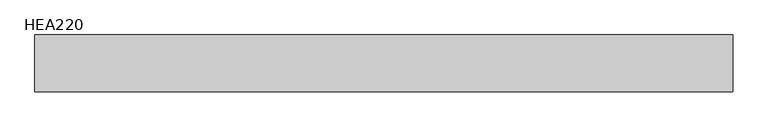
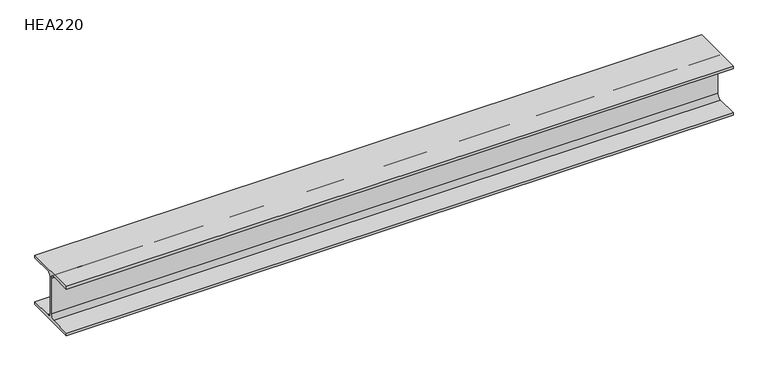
"""IFC4 building model written with IfcOpenShell, lengths in millimetres: beam geometry, HE-A : HEA220."""

import ifcopenshell
import ifcopenshell.guid

model = None  # the IFC model being written
_history = None  # IfcOwnerHistory: only IFC2X3 demands one
_inside = {}  # id of a spatial element -> (the spatial element, [elements in it])
_under = {}  # id of a project, library or spatial element -> (it, [spatial elements below it])
_declared = {}  # id of a project -> (the project, [libraries it declares])
_typed = {}  # id of a type object -> (the type object, [elements of that type])
_made_of = {}  # id of a material, layer set ... -> (it, [elements and type objects made of it])


def new_model(schema):
    """Start an empty IFC model of exactly this schema.

    Asked for "IFC4X3", IfcOpenShell would pick the latest addendum, in which some entities
    have other attributes; the version numbers below select the first issue.
    IFC2X3 requires an IfcOwnerHistory on every rooted entity: one is made here for all.
    """
    global model, _history
    if schema == "IFC4X3":
        model = ifcopenshell.file(schema_version=(4, 3, 0, 0))
    else:
        model = ifcopenshell.file(schema=schema)
    _inside.clear()
    _under.clear()
    _declared.clear()
    _typed.clear()
    _made_of.clear()
    _history = None
    if model.schema == "IFC2X3":
        org = make("IfcOrganization", Name="unknown")
        user = make(
            "IfcPersonAndOrganization",
            ThePerson=make("IfcPerson", FamilyName="unknown"),
            TheOrganization=org,
        )
        app = make(
            "IfcApplication",
            ApplicationDeveloper=org,
            Version="unknown",
            ApplicationFullName="unknown",
            ApplicationIdentifier="unknown",
        )
        _history = make(
            "IfcOwnerHistory",
            OwningUser=user,
            OwningApplication=app,
            ChangeAction="ADDED",
            CreationDate=0,
        )
    return model


def make(cls, **values):
    """One entity of the class cls with the attributes given. An attribute that is None is left unset."""
    return model.create_entity(
        cls, **{name: value for name, value in values.items() if value is not None}
    )


def rooted(cls, **values):
    """An entity with a GlobalId (a new one), such as an element, a storey or a relation."""
    return make(cls, GlobalId=ifcopenshell.guid.new(), OwnerHistory=_history, **values)


def si_unit(unit_type, name, prefix=None):
    """IfcSIUnit, for example si_unit("LENGTHUNIT", "METRE", prefix="MILLI")."""
    return make("IfcSIUnit", UnitType=unit_type, Prefix=prefix, Name=name)


def assignment(units):
    """IfcUnitAssignment: the units of a project."""
    return None if units is None else make("IfcUnitAssignment", Units=units)


def point(xyz):
    """IfcCartesianPoint."""
    return None if xyz is None else make("IfcCartesianPoint", Coordinates=xyz)


def direction(xyz):
    """IfcDirection."""
    return None if xyz is None else make("IfcDirection", DirectionRatios=xyz)


def frame(location, z_axis=None, x_axis=None):
    """IfcAxis2Placement3D, a coordinate frame: its origin and axes. An axis left out is left unset."""
    return make(
        "IfcAxis2Placement3D",
        Location=point(location),
        Axis=direction(z_axis),
        RefDirection=direction(x_axis),
    )


def frame_2d(location, x_axis=None):
    """IfcAxis2Placement2D, a coordinate frame in the plane: its origin and x axis."""
    return make(
        "IfcAxis2Placement2D", Location=point(location), RefDirection=direction(x_axis)
    )


def origin():
    """The frame at (0, 0, 0) with its axes left unset."""
    return frame((0.0, 0.0, 0.0))


def place(relative_to, where):
    """IfcLocalPlacement: puts the frame where relative to a parent placement (None: the world)."""
    return make(
        "IfcLocalPlacement", PlacementRelTo=relative_to, RelativePlacement=where
    )


def context(
    kind, dimensions, precision=None, world=None, true_north=None, identifier=None
):
    """IfcGeometricRepresentationContext, for example the 3D "Model" context."""
    return make(
        "IfcGeometricRepresentationContext",
        ContextIdentifier=identifier,
        ContextType=kind,
        CoordinateSpaceDimension=dimensions,
        Precision=precision,
        WorldCoordinateSystem=world,
        TrueNorth=true_north,
    )


def project(units=None, contexts=None):
    """IfcProject with its units and contexts."""
    return rooted(
        "IfcProject",
        Name="project",
        RepresentationContexts=contexts,
        UnitsInContext=assignment(units),
    )


def spatial(cls, under=None, at=None, **own):
    """A site, building, storey or space (cls), placed at a placement, below another one or the project."""
    s = rooted(cls, ObjectPlacement=at, **own)
    if under is not None:
        _under.setdefault(under.id(), (under, []))[1].append(s)
    return s


def polyline(points):
    """IfcPolyline through the points."""
    return make("IfcPolyline", Points=[point(p) for p in points])


def circle_curve(where, radius):
    """IfcCircle in the frame where."""
    return make("IfcCircle", Position=where, Radius=radius)


def trimmed(basis, trim1, trim2, sense, master):
    """IfcTrimmedCurve: the piece of a basis curve between two trims."""
    return make(
        "IfcTrimmedCurve",
        BasisCurve=basis,
        Trim1=trim1,
        Trim2=trim2,
        SenseAgreement=sense,
        MasterRepresentation=master,
    )


def segment(curve, same_sense, transition):
    """IfcCompositeCurveSegment."""
    return make(
        "IfcCompositeCurveSegment",
        Transition=transition,
        SameSense=same_sense,
        ParentCurve=curve,
    )


def composite_curve(segments, self_intersect=None):
    """IfcCompositeCurve: segments joined end to end."""
    return make("IfcCompositeCurve", Segments=segments, SelfIntersect=self_intersect)


def outline(outer, holes=None, kind="AREA"):
    """IfcArbitraryClosedProfileDef: a profile drawn as a closed curve; with holes, ...WithVoids."""
    if holes is None:
        return make("IfcArbitraryClosedProfileDef", ProfileType=kind, OuterCurve=outer)
    return make(
        "IfcArbitraryProfileDefWithVoids",
        ProfileType=kind,
        OuterCurve=outer,
        InnerCurves=holes,
    )


def extrude(swept, where, along, depth):
    """IfcExtrudedAreaSolid: the profile swept, set in the frame where, extruded along a direction by depth."""
    return make(
        "IfcExtrudedAreaSolid",
        SweptArea=swept,
        Position=where,
        ExtrudedDirection=direction(along),
        Depth=depth,
    )


def shape(context_of_items, identifier, shape_type, items):
    """IfcShapeRepresentation: the items that make up one representation, for example the "Body"."""
    return make(
        "IfcShapeRepresentation",
        ContextOfItems=context_of_items,
        RepresentationIdentifier=identifier,
        RepresentationType=shape_type,
        Items=items,
    )


def source(mapping_origin, context_of_items, identifier, shape_type, items):
    """IfcRepresentationMap: a shape defined once, which mapped items show again and again."""
    return make(
        "IfcRepresentationMap",
        MappingOrigin=mapping_origin,
        MappedRepresentation=shape(context_of_items, identifier, shape_type, items),
    )


def transform(
    local_origin,
    x_axis=None,
    y_axis=None,
    z_axis=None,
    scale=None,
    scale2=None,
    scale3=None,
    uniform=True,
):
    """IfcCartesianTransformationOperator3D, or its non-uniform kind. x_axis, y_axis, z_axis: its Axis1, 2, 3."""
    if uniform:
        return make(
            "IfcCartesianTransformationOperator3D",
            Axis1=direction(x_axis),
            Axis2=direction(y_axis),
            LocalOrigin=point(local_origin),
            Scale=scale,
            Axis3=direction(z_axis),
        )
    return make(
        "IfcCartesianTransformationOperator3DnonUniform",
        Axis1=direction(x_axis),
        Axis2=direction(y_axis),
        LocalOrigin=point(local_origin),
        Scale=scale,
        Axis3=direction(z_axis),
        Scale2=scale2,
        Scale3=scale3,
    )


def mapped(mapping_source, mapping_target):
    """IfcMappedItem: shows the shape of a source again, moved by a transform."""
    return make(
        "IfcMappedItem", MappingSource=mapping_source, MappingTarget=mapping_target
    )


def made_of(thing, what):
    """Note that an element or type object is made of a material, layer set ...; save() writes the relation."""
    if what is not None:
        _made_of.setdefault(what.id(), (what, []))[1].append(thing)
    return thing


def element(
    cls,
    number,
    at=None,
    inside=None,
    cuts=None,
    type_object=None,
    material=None,
    context=None,
    identifier="Body",
    shape_type=None,
    held_by="IfcProductDefinitionShape",
    body=None,
    shapes=None,
    **own,
):
    """One element of the class cls, such as IfcWall. Its Tag is "e" and its number.

    at: its placement. inside: the storey or other place that contains it. cuts: it is an
    opening in that element (IfcRelVoidsElement). A single representation is given by context,
    identifier, shape_type and body (its items); several are given by shapes. held_by: the class
    of the entity that holds the representations. save() writes the other relations.
    """
    e = rooted(cls, Tag="e%d" % number, ObjectPlacement=at, **own)
    if body is not None:
        shapes = [shape(context, identifier, shape_type, body)]
    if shapes is not None:
        e.Representation = make(held_by, Representations=shapes)
    if inside is not None:
        _inside.setdefault(inside.id(), (inside, []))[1].append(e)
    if cuts is not None:
        rooted(
            "IfcRelVoidsElement", RelatingBuildingElement=cuts, RelatedOpeningElement=e
        )
    if type_object is not None:
        _typed.setdefault(type_object.id(), (type_object, []))[1].append(e)
    return made_of(e, material)


def aggregate(whole, parts):
    """IfcRelAggregates: a whole, such as a stair, and the parts it consists of."""
    return rooted("IfcRelAggregates", RelatingObject=whole, RelatedObjects=parts)


def save(model, path):
    """Write the relations noted so far, then the file.

    IfcRelAggregates (storeys below a building ...), IfcRelContainedInSpatialStructure (elements
    in a storey), IfcRelDefinesByType, IfcRelAssociatesMaterial and IfcRelDeclares: one each for
    every whole, place, type object, material and project.
    """
    for whole, parts in _under.values():
        aggregate(whole, parts)
    for where, things in _inside.values():
        rooted(
            "IfcRelContainedInSpatialStructure",
            RelatedElements=things,
            RelatingStructure=where,
        )
    for kind, things in _typed.values():
        rooted("IfcRelDefinesByType", RelatedObjects=things, RelatingType=kind)
    for what, things in _made_of.values():
        rooted("IfcRelAssociatesMaterial", RelatedObjects=things, RelatingMaterial=what)
    for by, libraries in _declared.values():
        rooted("IfcRelDeclares", RelatingContext=by, RelatedDefinitions=libraries)
    model.write(path)


def hea220_2531376c(model_context):
    return source(origin(), model_context, "Body", "SweptSolid", [
        extrude(outline(composite_curve([segment(polyline([(110.0, -94.0), (110.0, -105.0), (-110.0, -105.0), (-110.0, -94.0), (-21.5, -94.0)]), True, "CONTINUOUS"), segment(trimmed(circle_curve(frame_2d((-21.5, -76.0)), 18.0), [point((-21.5, -94.0))], [point((-3.5, -76.0))], True, "CARTESIAN"), True, "CONTINUOUS"), segment(polyline([(-3.5, -76.0), (-3.5, 76.0)]), True, "CONTINUOUS"), segment(trimmed(circle_curve(frame_2d((-21.5, 76.0)), 18.0), [point((-3.5, 76.0))], [point((-21.5, 94.0))], True, "CARTESIAN"), True, "CONTINUOUS"), segment(polyline([(-21.5, 94.0), (-110.0, 94.0), (-110.0, 105.0), (110.0, 105.0), (110.0, 94.0), (21.5, 94.0)]), True, "CONTINUOUS"), segment(trimmed(circle_curve(frame_2d((21.5, 76.0)), 18.0), [point((21.5, 94.0))], [point((3.5, 76.0))], True, "CARTESIAN"), True, "CONTINUOUS"), segment(polyline([(3.5, 76.0), (3.5, -76.0)]), True, "CONTINUOUS"), segment(trimmed(circle_curve(frame_2d((21.5, -76.0)), 18.0), [point((3.5, -76.0))], [point((21.5, -94.0))], True, "CARTESIAN"), True, "CONTINUOUS"), segment(polyline([(21.5, -94.0), (110.0, -94.0)]), True, "CONTINUOUS")], self_intersect=False)), frame((-1346.9, 0.0, 0.0), z_axis=(1.0, 0.0, 0.0), x_axis=(0.0, 1.0, 0.0)), (0.0, 0.0, 1.0), 2693.8),
    ])


if __name__ == "__main__":
    model = new_model("IFC4")
    model_context = context("Model", 3, world=origin())
    ifc_project = project(units=[si_unit("LENGTHUNIT", "METRE", prefix="MILLI")], contexts=[model_context])
    site = spatial("IfcSite", under=ifc_project)
    building = spatial("IfcBuilding", under=site)
    placement = place(None, origin())
    hea220_shape = hea220_2531376c(model_context)
    element("IfcBeam", 1, ObjectType="HE-A : HEA220", at=placement, inside=building, context=model_context, shape_type="MappedRepresentation", body=[
        mapped(hea220_shape, transform((0.0, 0.0, 0.0), x_axis=(1.0, 0.0, 0.0), y_axis=(0.0, 1.0, 0.0), z_axis=(0.0, 0.0, 1.0))),
    ])
    save(model, "model.ifc")
